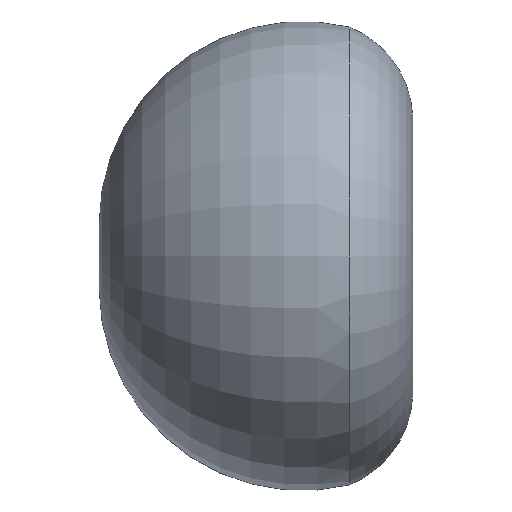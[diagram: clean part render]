
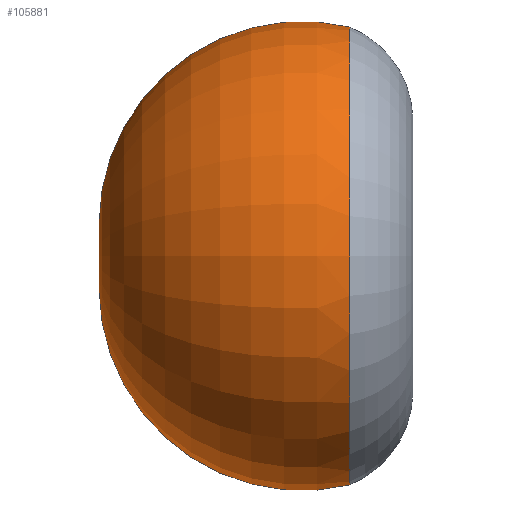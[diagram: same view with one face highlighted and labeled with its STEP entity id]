
A CAD part, left-side view. The second image highlights one B-rep face of the part: STEP entity #105881.
In plain terms, the highlighted toroidal (fillet/blend) face has major radius 350 mm and minor radius 2267 mm.
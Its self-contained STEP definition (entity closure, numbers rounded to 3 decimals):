
#15684 = DIRECTION ( 'NONE',  ( 0., -1., 0. ) ) ;
#15685 = CARTESIAN_POINT ( 'NONE',  ( 0., 830., 0. ) ) ;
#15854 = DIRECTION ( 'NONE',  ( 0., 0., -1. ) ) ;
#15855 = DIRECTION ( 'NONE',  ( 0., -1., 0. ) ) ;
#15856 = CARTESIAN_POINT ( 'NONE',  ( 0., 299.885, 0. ) ) ;
#15857 = AXIS2_PLACEMENT_3D ( 'NONE', #15856, #15855, #15854 ) ;
#15858 = CIRCLE ( 'NONE', #15857, 2554.143 ) ;
#15891 = CIRCLE ( 'NONE', #15928, 2266.995 ) ;
#15925 = DIRECTION ( 'NONE',  ( 0., 0., 1. ) ) ;
#15926 = DIRECTION ( 'NONE',  ( -1., 0., 0. ) ) ;
#15927 = CARTESIAN_POINT ( 'NONE',  ( 0., 830., -350. ) ) ;
#15928 = AXIS2_PLACEMENT_3D ( 'NONE', #15927, #15926, #15925 ) ;
#16113 = TOROIDAL_SURFACE ( 'NONE', #16115, 350., 2266.995 ) ;
#16115 = AXIS2_PLACEMENT_3D ( 'NONE', #15685, #15684, #16159 ) ;
#16116 = FACE_OUTER_BOUND ( 'NONE', #105795, .T. ) ;
#16159 = DIRECTION ( 'NONE',  ( 0., 0., -1. ) ) ;
#16411 = DIRECTION ( 'NONE',  ( 0., 0., -1. ) ) ;
#16412 = DIRECTION ( 'NONE',  ( 1., 0., 0. ) ) ;
#16413 = CARTESIAN_POINT ( 'NONE',  ( 0., 830., 350. ) ) ;
#16414 = AXIS2_PLACEMENT_3D ( 'NONE', #16413, #16412, #16411 ) ;
#16415 = CIRCLE ( 'NONE', #16414, 2266.995 ) ;
#16417 = CARTESIAN_POINT ( 'NONE',  ( 0., 3069.814, 0. ) ) ;
#17538 = CARTESIAN_POINT ( 'NONE',  ( 0., 299.885, 2554.143 ) ) ;
#17543 = CARTESIAN_POINT ( 'NONE',  ( 0., 299.885, -2554.143 ) ) ;
#105747 = ORIENTED_EDGE ( 'NONE', *, *, #105783, .T. ) ;
#105749 = ORIENTED_EDGE ( 'NONE', *, *, #105751, .F. ) ;
#105751 = EDGE_CURVE ( 'NONE', #106255, #106253, #15858, .T. ) ;
#105783 = EDGE_CURVE ( 'NONE', #105968, #106253, #15891, .T. ) ;
#105795 = EDGE_LOOP ( 'NONE', ( #105883, #105747, #105749 ) ) ;
#105881 = ADVANCED_FACE ( 'NONE', ( #16116 ), #16113, .T. ) ;
#105883 = ORIENTED_EDGE ( 'NONE', *, *, #105971, .F. ) ;
#105968 = VERTEX_POINT ( 'NONE', #16417 ) ;
#105971 = EDGE_CURVE ( 'NONE', #105968, #106255, #16415, .T. ) ;
#106253 = VERTEX_POINT ( 'NONE', #17543 ) ;
#106255 = VERTEX_POINT ( 'NONE', #17538 ) ;
